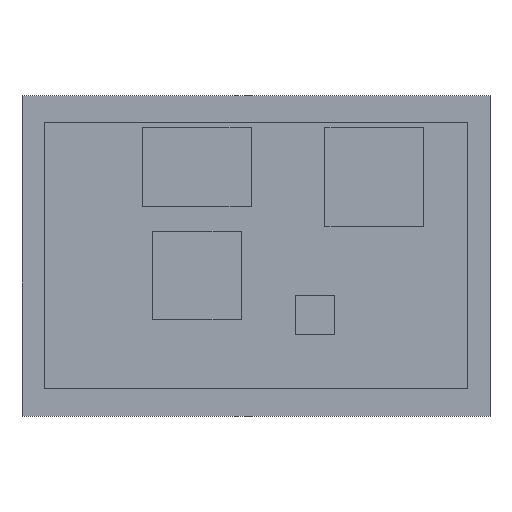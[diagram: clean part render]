
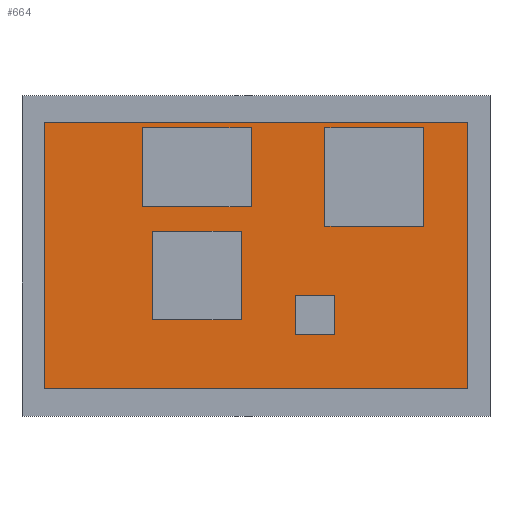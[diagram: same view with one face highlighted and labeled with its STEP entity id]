
A CAD part, top view. The second image highlights one B-rep face of the part: STEP entity #664.
In plain terms, the highlighted planar face has unit normal (0, 0, 1).
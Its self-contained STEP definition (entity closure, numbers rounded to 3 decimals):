
#535 = VERTEX_POINT('',#536);
#536 = CARTESIAN_POINT('',(-43.,-27.,8.));
#551 = VERTEX_POINT('',#552);
#552 = CARTESIAN_POINT('',(-43.,27.,8.));
#558 = EDGE_CURVE('',#535,#551,#559,.T.);
#559 = LINE('',#560,#561);
#560 = CARTESIAN_POINT('',(-43.,-27.,8.));
#561 = VECTOR('',#562,1.);
#562 = DIRECTION('',(-0.,1.,0.));
#575 = VERTEX_POINT('',#576);
#576 = CARTESIAN_POINT('',(43.,-27.,8.));
#591 = VERTEX_POINT('',#592);
#592 = CARTESIAN_POINT('',(43.,27.,8.));
#598 = EDGE_CURVE('',#575,#591,#599,.T.);
#599 = LINE('',#600,#601);
#600 = CARTESIAN_POINT('',(43.,-27.,8.));
#601 = VECTOR('',#602,1.);
#602 = DIRECTION('',(-0.,1.,0.));
#619 = EDGE_CURVE('',#535,#575,#620,.T.);
#620 = LINE('',#621,#622);
#621 = CARTESIAN_POINT('',(-43.,-27.,8.));
#622 = VECTOR('',#623,1.);
#623 = DIRECTION('',(1.,0.,-0.));
#641 = EDGE_CURVE('',#551,#591,#642,.T.);
#642 = LINE('',#643,#644);
#643 = CARTESIAN_POINT('',(-43.,27.,8.));
#644 = VECTOR('',#645,1.);
#645 = DIRECTION('',(1.,0.,-0.));
#664 = ADVANCED_FACE('',(#665),#671,.T.);
#665 = FACE_BOUND('',#666,.T.);
#666 = EDGE_LOOP('',(#667,#668,#669,#670));
#667 = ORIENTED_EDGE('',*,*,#558,.F.);
#668 = ORIENTED_EDGE('',*,*,#619,.T.);
#669 = ORIENTED_EDGE('',*,*,#598,.T.);
#670 = ORIENTED_EDGE('',*,*,#641,.F.);
#671 = PLANE('',#672);
#672 = AXIS2_PLACEMENT_3D('',#673,#674,#675);
#673 = CARTESIAN_POINT('',(-43.,-27.,8.));
#674 = DIRECTION('',(0.,0.,1.));
#675 = DIRECTION('',(1.,0.,-0.));
